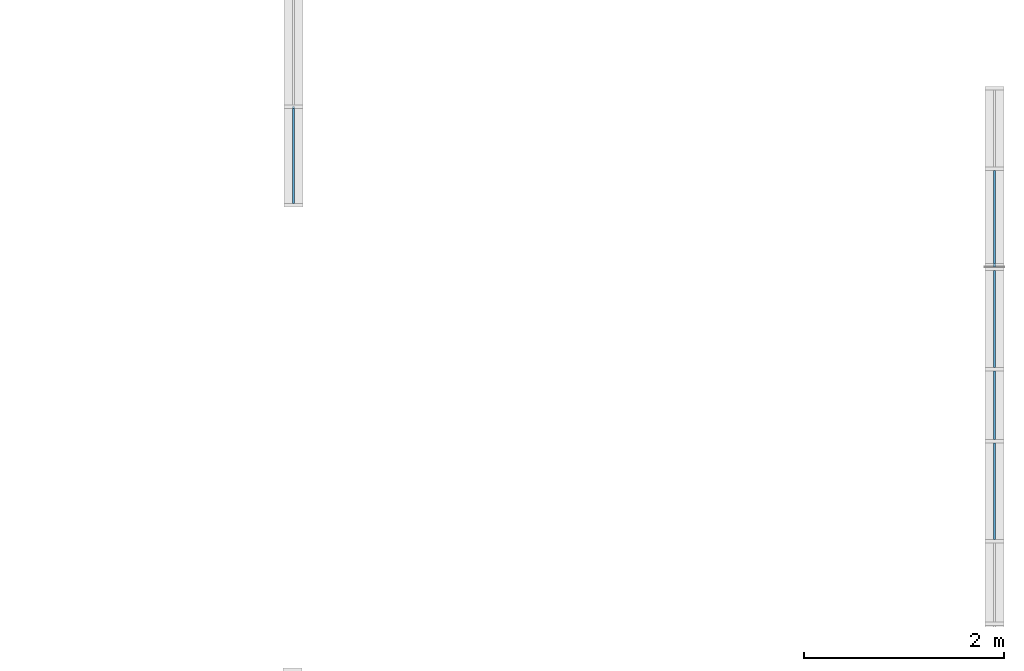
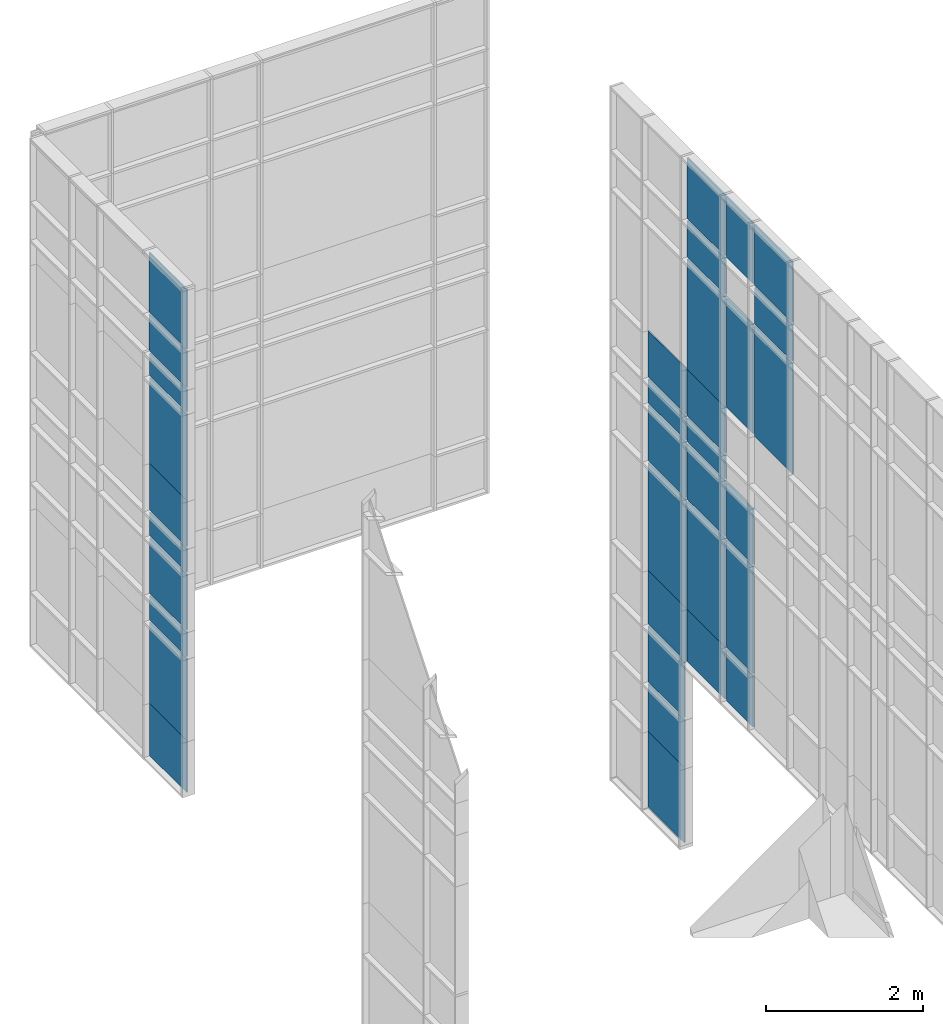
# One storey, part 34 of 73: 34 plates, 2 elements without a shape of their own.
"""IFC2X3 building model written with IfcOpenShell, lengths in millimetres."""

from ifc_helpers import new_model, entity, si_unit, converted_unit, derived_unit, direction, frame, origin, origin_2d_with_axis, place, context, subcontext, project, spatial, polyline, rectangle, outline, extrude, source, transform, mapped, material, layer, layer_set, layer_usage, type_object, type_shapes, element, aggregate, save


model = new_model("IFC2X3")

# Units and contexts
model_context = context("Model", 3, precision=0.01, world=origin(), true_north=direction((6.12303176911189e-17, 1.0)))
body_context = subcontext(model_context, "Body", "Model", "MODEL_VIEW")
ifc_project = project(units=[si_unit("LENGTHUNIT", "METRE", prefix="MILLI"), si_unit("AREAUNIT", "SQUARE_METRE"), si_unit("VOLUMEUNIT", "CUBIC_METRE"), converted_unit("PLANEANGLEUNIT", "DEGREE", entity("IfcRatioMeasure", 0.0174532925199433), si_unit("PLANEANGLEUNIT", "RADIAN"), dimensions=[0, 0, 0, 0, 0, 0, 0]), si_unit("MASSUNIT", "GRAM", prefix="KILO"), derived_unit("MASSDENSITYUNIT", [(si_unit("MASSUNIT", "GRAM", prefix="KILO"), 1), (si_unit("LENGTHUNIT", "METRE"), -3)]), si_unit("TIMEUNIT", "SECOND"), si_unit("FREQUENCYUNIT", "HERTZ"), si_unit("THERMODYNAMICTEMPERATUREUNIT", "DEGREE_CELSIUS"), derived_unit("THERMALTRANSMITTANCEUNIT", [(si_unit("MASSUNIT", "GRAM", prefix="KILO"), 1), (si_unit("THERMODYNAMICTEMPERATUREUNIT", "KELVIN"), -1), (si_unit("TIMEUNIT", "SECOND"), -3)]), derived_unit("VOLUMETRICFLOWRATEUNIT", [(si_unit("LENGTHUNIT", "METRE"), 3), (si_unit("TIMEUNIT", "SECOND"), -1)]), si_unit("ELECTRICCURRENTUNIT", "AMPERE"), si_unit("ELECTRICVOLTAGEUNIT", "VOLT"), si_unit("POWERUNIT", "WATT"), si_unit("FORCEUNIT", "NEWTON", prefix="KILO"), si_unit("ILLUMINANCEUNIT", "LUX"), si_unit("LUMINOUSFLUXUNIT", "LUMEN"), si_unit("LUMINOUSINTENSITYUNIT", "CANDELA"), derived_unit("USERDEFINED", [(si_unit("MASSUNIT", "GRAM", prefix="KILO"), -1), (si_unit("LENGTHUNIT", "METRE"), -2), (si_unit("TIMEUNIT", "SECOND"), 3), (si_unit("LUMINOUSFLUXUNIT", "LUMEN"), 1)]), derived_unit("LINEARVELOCITYUNIT", [(si_unit("LENGTHUNIT", "METRE"), 1), (si_unit("TIMEUNIT", "SECOND"), -1)]), si_unit("PRESSUREUNIT", "PASCAL"), derived_unit("USERDEFINED", [(si_unit("LENGTHUNIT", "METRE"), -2), (si_unit("MASSUNIT", "GRAM", prefix="KILO"), 1), (si_unit("TIMEUNIT", "SECOND"), -2)])], contexts=[model_context])

# Site, building, storey
site_placement = place(None, frame((-151.875543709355, 2715.0, 0.0)))
site = spatial("IfcSite", under=ifc_project, at=site_placement, Name="Surface", CompositionType="ELEMENT")
building_placement = place(site_placement, origin())
building = spatial("IfcBuilding", under=site, at=building_placement, CompositionType="ELEMENT")
storey_placement = place(building_placement, frame((0.0, 0.0, 6730.43000000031)))
storey = spatial("IfcBuildingStorey", under=building, at=storey_placement, Name="3 korrus", CompositionType="ELEMENT", Elevation=6730.43000000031)

# Curtain wall, plates
curtain_wall_type_1 = type_object("IfcCurtainWallType", Name="Curtain Wall:Klaasfassaad", PredefinedType="NOTDEFINED")
curtain_wall_1_placement = place(storey_placement, frame((0.0, 0.0, -6730.43000000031)))
curtain_wall_1 = element("IfcCurtainWall", 1, at=curtain_wall_1_placement, inside=storey, type_object=curtain_wall_type_1, Name="Curtain Wall:Klaasfassaad", ObjectType="Curtain Wall:Klaasfassaad")
ifc_material = material(Name="<Unnamed>")
ifc_layer = layer(ifc_material, 20.0)
ifc_layer_set = layer_set([ifc_layer], Name="Curtain Wall:Klaassein KLS-01")
ifc_layer_usage_1 = layer_usage(ifc_layer_set, "AXIS3", "POSITIVE", 0.0)
plate_type_1 = type_object("IfcPlateType", Name="Glazed", PredefinedType="CURTAIN_PANEL", material=ifc_layer_set)
shared_shape_1 = source(origin(), body_context, "Body", "SweptSolid", [
    extrude(rectangle(XDim=20.0, YDim=927.500026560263, at=origin_2d_with_axis()), frame((0.0, 0.0, 0.0), z_axis=(0.0, 0.0, 1.0), x_axis=(0.0, 1.0, 0.0)), (0.0, 0.0, 1.0), 1174.42772498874),
])
type_shapes(plate_type_1, [shared_shape_1])
plate_1_placement = place(curtain_wall_1_placement, frame((38701.6162681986, 22509.250443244, 1040.00001468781), z_axis=(0.0, 0.0, 1.0), x_axis=(0.0, 1.0, 0.0)))
plate_1 = element("IfcPlate", 2, at=plate_1_placement, type_object=plate_type_1, material=ifc_layer_usage_1, Name="System Panel:Glazed", ObjectType="Glazed", context=body_context, shape_type="MappedRepresentation", body=[
    mapped(shared_shape_1, transform((0.0, 0.0, 0.0), scale=1.0)),
])
ifc_layer_usage_2 = layer_usage(ifc_layer_set, "AXIS3", "POSITIVE", 0.0)
plate_type_2 = type_object("IfcPlateType", Name="Glazed", PredefinedType="CURTAIN_PANEL", material=ifc_layer_set)
shared_shape_2 = source(origin(), body_context, "Body", "SweptSolid", [
    extrude(rectangle(XDim=20.0, YDim=927.500026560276, at=origin_2d_with_axis()), frame((0.0, 0.0, 0.0), z_axis=(0.0, 0.0, 1.0), x_axis=(0.0, 1.0, 0.0)), (0.0, 0.0, 1.0), 742.5),
])
type_shapes(plate_type_2, [shared_shape_2])
plate_2_placement = place(curtain_wall_1_placement, frame((38701.6162681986, 22509.250443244, 2214.42773967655), z_axis=(0.0, 0.0, 1.0), x_axis=(0.0, 1.0, 0.0)))
plate_2 = element("IfcPlate", 3, at=plate_2_placement, type_object=plate_type_2, material=ifc_layer_usage_2, Name="System Panel:Glazed", ObjectType="Glazed", context=body_context, shape_type="MappedRepresentation", body=[
    mapped(shared_shape_2, transform((0.0, 0.0, 0.0), scale=1.0)),
])
ifc_layer_usage_3 = layer_usage(ifc_layer_set, "AXIS3", "POSITIVE", 0.0)
plate_type_3 = type_object("IfcPlateType", Name="Glazed", PredefinedType="CURTAIN_PANEL", material=ifc_layer_set)
shared_shape_3 = source(origin(), body_context, "Body", "SweptSolid", [
    extrude(rectangle(XDim=20.0, YDim=927.500026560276, at=origin_2d_with_axis()), frame((0.0, 0.0, 0.0), z_axis=(0.0, 0.0, 1.0), x_axis=(0.0, 1.0, 0.0)), (0.0, 0.0, 1.0), 864.999999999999),
])
type_shapes(plate_type_3, [shared_shape_3])
plate_3_placement = place(curtain_wall_1_placement, frame((38701.6162681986, 22509.250443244, 2991.92773967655), z_axis=(0.0, 0.0, 1.0), x_axis=(0.0, 1.0, 0.0)))
plate_3 = element("IfcPlate", 4, at=plate_3_placement, type_object=plate_type_3, material=ifc_layer_usage_3, Name="System Panel:Glazed", ObjectType="Glazed", context=body_context, shape_type="MappedRepresentation", body=[
    mapped(shared_shape_3, transform((0.0, 0.0, 0.0), scale=1.0)),
])
ifc_layer_usage_4 = layer_usage(ifc_layer_set, "AXIS3", "POSITIVE", 0.0)
plate_type_4 = type_object("IfcPlateType", Name="Glazed", PredefinedType="CURTAIN_PANEL", material=ifc_layer_set)
shared_shape_4 = source(origin(), body_context, "Body", "SweptSolid", [
    extrude(rectangle(XDim=20.0, YDim=684.999999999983, at=origin_2d_with_axis()), frame((0.0, 0.0, 0.0), z_axis=(0.0, 0.0, 1.0), x_axis=(0.0, 1.0, 0.0)), (0.0, 0.0, 1.0), 797.659729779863),
])
type_shapes(plate_type_4, [shared_shape_4])
plate_4_placement = place(curtain_wall_1_placement, frame((38701.6162681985, 20630.5004565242, 3909.42773967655), z_axis=(0.0, 0.0, 1.0), x_axis=(0.0, 1.0, 0.0)))
plate_4 = element("IfcPlate", 5, at=plate_4_placement, type_object=plate_type_4, material=ifc_layer_usage_4, Name="System Panel:Glazed", ObjectType="Glazed", context=body_context, shape_type="MappedRepresentation", body=[
    mapped(shared_shape_4, transform((0.0, 0.0, 0.0), scale=1.0)),
])
ifc_layer_usage_5 = layer_usage(ifc_layer_set, "AXIS3", "POSITIVE", 0.0)
plate_type_5 = type_object("IfcPlateType", Name="Glazed", PredefinedType="CURTAIN_PANEL", material=ifc_layer_set)
shared_shape_5 = source(origin(), body_context, "Body", "SweptSolid", [
    extrude(rectangle(XDim=20.0, YDim=964.999999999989, at=origin_2d_with_axis()), frame((0.0, 0.0, 0.0), z_axis=(0.0, 0.0, 1.0), x_axis=(0.0, 1.0, 0.0)), (0.0, 0.0, 1.0), 815.159729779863),
])
type_shapes(plate_type_5, [shared_shape_5])
plate_5_placement = place(curtain_wall_1_placement, frame((38701.6162681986, 21490.5004565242, 3909.42773967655), z_axis=(0.0, 0.0, 1.0), x_axis=(0.0, 1.0, 0.0)))
plate_5 = element("IfcPlate", 6, at=plate_5_placement, type_object=plate_type_5, material=ifc_layer_usage_5, Name="System Panel:Glazed", ObjectType="Glazed", context=body_context, shape_type="MappedRepresentation", body=[
    mapped(shared_shape_5, transform((0.0, 0.0, 0.0), scale=1.0)),
])
ifc_layer_usage_6 = layer_usage(ifc_layer_set, "AXIS3", "POSITIVE", 0.0)
plate_type_6 = type_object("IfcPlateType", Name="Glazed", PredefinedType="CURTAIN_PANEL", material=ifc_layer_set)
shared_shape_6 = source(origin(), body_context, "Body", "SweptSolid", [
    extrude(outline(polyline([(-283.386576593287, 320.000017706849), (-283.386576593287, -642.500008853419), (549.273153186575, -642.500008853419), (549.273153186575, 322.49999114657), (-265.886576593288, 322.49999114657), (-265.886576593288, 320.000017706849), (-283.386576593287, 320.000017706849)])), frame((-160.000008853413, -10.0, 283.386576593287), z_axis=(0.0, -1.0, 0.0), x_axis=(0.0, 0.0, 1.0)), (0.0, 0.0, -1.0), 20.0),
])
type_shapes(plate_type_6, [shared_shape_6])
plate_6_placement = place(curtain_wall_1_placement, frame((38701.6162681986, 22490.5004565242, 3891.92773967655), z_axis=(0.0, 0.0, 1.0), x_axis=(0.0, 1.0, 0.0)))
plate_6 = element("IfcPlate", 7, at=plate_6_placement, type_object=plate_type_6, material=ifc_layer_usage_6, Name="System Panel:Glazed", ObjectType="Glazed", context=body_context, shape_type="MappedRepresentation", body=[
    mapped(shared_shape_6, transform((0.0, 0.0, 0.0), scale=1.0)),
])
ifc_layer_usage_7 = layer_usage(ifc_layer_set, "AXIS3", "POSITIVE", 0.0)
plate_type_7 = type_object("IfcPlateType", Name="Glazed", PredefinedType="CURTAIN_PANEL", material=ifc_layer_set)
shared_shape_7 = source(origin(), body_context, "Body", "SweptSolid", [
    extrude(rectangle(XDim=20.0, YDim=684.999999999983, at=origin_2d_with_axis()), frame((0.0, 0.0, 0.0), z_axis=(0.0, 0.0, 1.0), x_axis=(0.0, 1.0, 0.0)), (0.0, 0.0, 1.0), 1665.31945955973),
])
type_shapes(plate_type_7, [shared_shape_7])
plate_7_placement = place(curtain_wall_1_placement, frame((38701.6162681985, 20630.5004565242, 4742.08746945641), z_axis=(0.0, 0.0, 1.0), x_axis=(0.0, 1.0, 0.0)))
plate_7 = element("IfcPlate", 8, at=plate_7_placement, type_object=plate_type_7, material=ifc_layer_usage_7, Name="System Panel:Glazed", ObjectType="Glazed", context=body_context, shape_type="MappedRepresentation", body=[
    mapped(shared_shape_7, transform((0.0, 0.0, 0.0), scale=1.0)),
])
ifc_layer_usage_8 = layer_usage(ifc_layer_set, "AXIS3", "POSITIVE", 0.0)
plate_type_8 = type_object("IfcPlateType", Name="Glazed", PredefinedType="CURTAIN_PANEL", material=ifc_layer_set)
shared_shape_8 = source(origin(), body_context, "Body", "SweptSolid", [
    extrude(rectangle(XDim=20.0, YDim=964.999999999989, at=origin_2d_with_axis()), frame((0.0, 0.0, 0.0), z_axis=(0.0, 0.0, 1.0), x_axis=(0.0, 1.0, 0.0)), (0.0, 0.0, 1.0), 1682.81945955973),
])
type_shapes(plate_type_8, [shared_shape_8])
plate_8_placement = place(curtain_wall_1_placement, frame((38701.6162681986, 21490.5004565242, 4724.58746945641), z_axis=(0.0, 0.0, 1.0), x_axis=(0.0, 1.0, 0.0)))
plate_8 = element("IfcPlate", 9, at=plate_8_placement, type_object=plate_type_8, material=ifc_layer_usage_8, Name="System Panel:Glazed", ObjectType="Glazed", context=body_context, shape_type="MappedRepresentation", body=[
    mapped(shared_shape_8, transform((0.0, 0.0, 0.0), scale=1.0)),
])
ifc_layer_usage_9 = layer_usage(ifc_layer_set, "AXIS3", "POSITIVE", 0.0)
plate_9_placement = place(curtain_wall_1_placement, frame((38701.6162681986, 22490.5004565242, 4724.58746945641), z_axis=(0.0, 0.0, 1.0), x_axis=(0.0, 1.0, 0.0)))
plate_9 = element("IfcPlate", 10, at=plate_9_placement, type_object=plate_type_8, material=ifc_layer_usage_9, Name="System Panel:Glazed", ObjectType="Glazed", context=body_context, shape_type="MappedRepresentation", body=[
    mapped(shared_shape_8, transform((0.0, 0.0, 0.0), scale=1.0)),
])
ifc_layer_usage_10 = layer_usage(ifc_layer_set, "AXIS3", "POSITIVE", 0.0)
plate_type_9 = type_object("IfcPlateType", Name="Glazed", PredefinedType="CURTAIN_PANEL", material=ifc_layer_set)
shared_shape_9 = source(origin(), body_context, "Body", "SweptSolid", [
    extrude(rectangle(XDim=20.0, YDim=684.999999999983, at=origin_2d_with_axis()), frame((0.0, 0.0, 0.0), z_axis=(0.0, 0.0, 1.0), x_axis=(0.0, 1.0, 0.0)), (0.0, 0.0, 1.0), 865.0),
])
type_shapes(plate_type_9, [shared_shape_9])
plate_10_placement = place(curtain_wall_1_placement, frame((38701.6162681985, 20630.5004565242, 6442.40692901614), z_axis=(0.0, 0.0, 1.0), x_axis=(0.0, 1.0, 0.0)))
plate_10 = element("IfcPlate", 11, at=plate_10_placement, type_object=plate_type_9, material=ifc_layer_usage_10, Name="System Panel:Glazed", ObjectType="Glazed", context=body_context, shape_type="MappedRepresentation", body=[
    mapped(shared_shape_9, transform((0.0, 0.0, 0.0), scale=1.0)),
])
ifc_layer_usage_11 = layer_usage(ifc_layer_set, "AXIS3", "POSITIVE", 0.0)
plate_type_10 = type_object("IfcPlateType", Name="Glazed", PredefinedType="CURTAIN_PANEL", material=ifc_layer_set)
shared_shape_10 = source(origin(), body_context, "Body", "SweptSolid", [
    extrude(rectangle(XDim=20.0, YDim=964.999999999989, at=origin_2d_with_axis()), frame((0.0, 0.0, 0.0), z_axis=(0.0, 0.0, 1.0), x_axis=(0.0, 1.0, 0.0)), (0.0, 0.0, 1.0), 865.0),
])
type_shapes(plate_type_10, [shared_shape_10])
plate_11_placement = place(curtain_wall_1_placement, frame((38701.6162681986, 21490.5004565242, 6442.40692901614), z_axis=(0.0, 0.0, 1.0), x_axis=(0.0, 1.0, 0.0)))
plate_11 = element("IfcPlate", 12, at=plate_11_placement, type_object=plate_type_10, material=ifc_layer_usage_11, Name="System Panel:Glazed", ObjectType="Glazed", context=body_context, shape_type="MappedRepresentation", body=[
    mapped(shared_shape_10, transform((0.0, 0.0, 0.0), scale=1.0)),
])
ifc_layer_usage_12 = layer_usage(ifc_layer_set, "AXIS3", "POSITIVE", 0.0)
plate_12_placement = place(curtain_wall_1_placement, frame((38701.6162681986, 22490.5004565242, 6442.40692901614), z_axis=(0.0, 0.0, 1.0), x_axis=(0.0, 1.0, 0.0)))
plate_12 = element("IfcPlate", 13, at=plate_12_placement, type_object=plate_type_10, material=ifc_layer_usage_12, Name="System Panel:Glazed", ObjectType="Glazed", context=body_context, shape_type="MappedRepresentation", body=[
    mapped(shared_shape_10, transform((0.0, 0.0, 0.0), scale=1.0)),
])
ifc_layer_usage_13 = layer_usage(ifc_layer_set, "AXIS3", "POSITIVE", 0.0)
plate_type_11 = type_object("IfcPlateType", Name="Glazed", PredefinedType="CURTAIN_PANEL", material=ifc_layer_set)
shared_shape_11 = source(origin(), body_context, "Body", "SweptSolid", [
    extrude(rectangle(XDim=20.0, YDim=964.999999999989, at=origin_2d_with_axis()), frame((0.0, 0.0, 0.0), z_axis=(0.0, 0.0, 1.0), x_axis=(0.0, 1.0, 0.0)), (0.0, 0.0, 1.0), 364.999999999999),
])
type_shapes(plate_type_11, [shared_shape_11])
plate_13_placement = place(curtain_wall_1_placement, frame((38701.6162681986, 21490.5004565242, 7342.40692901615), z_axis=(0.0, 0.0, 1.0), x_axis=(0.0, 1.0, 0.0)))
plate_13 = element("IfcPlate", 14, at=plate_13_placement, type_object=plate_type_11, material=ifc_layer_usage_13, Name="System Panel:Glazed", ObjectType="Glazed", context=body_context, shape_type="MappedRepresentation", body=[
    mapped(shared_shape_11, transform((0.0, 0.0, 0.0), scale=1.0)),
])
ifc_layer_usage_14 = layer_usage(ifc_layer_set, "AXIS3", "POSITIVE", 0.0)
plate_14_placement = place(curtain_wall_1_placement, frame((38701.6162681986, 22490.5004565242, 7342.40692901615), z_axis=(0.0, 0.0, 1.0), x_axis=(0.0, 1.0, 0.0)))
plate_14 = element("IfcPlate", 15, at=plate_14_placement, type_object=plate_type_11, material=ifc_layer_usage_14, Name="System Panel:Glazed", ObjectType="Glazed", context=body_context, shape_type="MappedRepresentation", body=[
    mapped(shared_shape_11, transform((0.0, 0.0, 0.0), scale=1.0)),
])
ifc_layer_usage_15 = layer_usage(ifc_layer_set, "AXIS3", "POSITIVE", 0.0)
plate_type_12 = type_object("IfcPlateType", Name="Glazed", PredefinedType="CURTAIN_PANEL", material=ifc_layer_set)
shared_shape_12 = source(origin(), body_context, "Body", "SweptSolid", [
    extrude(rectangle(XDim=20.0, YDim=964.999999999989, at=origin_2d_with_axis()), frame((0.0, 0.0, 0.0), z_axis=(0.0, 0.0, 1.0), x_axis=(0.0, 1.0, 0.0)), (0.0, 0.0, 1.0), 722.5),
])
type_shapes(plate_type_12, [shared_shape_12])
plate_15_placement = place(curtain_wall_1_placement, frame((38701.6162681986, 21490.5004565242, 7742.40692901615), z_axis=(0.0, 0.0, 1.0), x_axis=(0.0, 1.0, 0.0)))
plate_15 = element("IfcPlate", 16, at=plate_15_placement, type_object=plate_type_12, material=ifc_layer_usage_15, Name="System Panel:Glazed", ObjectType="Glazed", context=body_context, shape_type="MappedRepresentation", body=[
    mapped(shared_shape_12, transform((0.0, 0.0, 0.0), scale=1.0)),
])
ifc_layer_usage_16 = layer_usage(ifc_layer_set, "AXIS3", "POSITIVE", 0.0)
plate_16_placement = place(curtain_wall_1_placement, frame((38701.6162681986, 22490.5004565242, 7742.40692901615), z_axis=(0.0, 0.0, 1.0), x_axis=(0.0, 1.0, 0.0)))
plate_16 = element("IfcPlate", 17, at=plate_16_placement, type_object=plate_type_12, material=ifc_layer_usage_16, Name="System Panel:Glazed", ObjectType="Glazed", context=body_context, shape_type="MappedRepresentation", body=[
    mapped(shared_shape_12, transform((0.0, 0.0, 0.0), scale=1.0)),
])
ifc_layer_usage_17 = layer_usage(ifc_layer_set, "AXIS3", "POSITIVE", 0.0)
plate_type_13 = type_object("IfcPlateType", Name="Glazed", PredefinedType="CURTAIN_PANEL", material=ifc_layer_set)
shared_shape_13 = source(origin(), body_context, "Body", "SweptSolid", [
    extrude(rectangle(XDim=20.0, YDim=684.999999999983, at=origin_2d_with_axis()), frame((0.0, 0.0, 0.0), z_axis=(0.0, 0.0, 1.0), x_axis=(0.0, 1.0, 0.0)), (0.0, 0.0, 1.0), 1705.0),
])
type_shapes(plate_type_13, [shared_shape_13])
plate_17_placement = place(curtain_wall_1_placement, frame((38701.6162681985, 20630.5004565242, 8482.40692901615), z_axis=(0.0, 0.0, 1.0), x_axis=(0.0, 1.0, 0.0)))
plate_17 = element("IfcPlate", 18, at=plate_17_placement, type_object=plate_type_13, material=ifc_layer_usage_17, Name="System Panel:Glazed", ObjectType="Glazed", context=body_context, shape_type="MappedRepresentation", body=[
    mapped(shared_shape_13, transform((0.0, 0.0, 0.0), scale=1.0)),
])
ifc_layer_usage_18 = layer_usage(ifc_layer_set, "AXIS3", "POSITIVE", 0.0)
plate_type_14 = type_object("IfcPlateType", Name="Glazed", PredefinedType="CURTAIN_PANEL", material=ifc_layer_set)
shared_shape_14 = source(origin(), body_context, "Body", "SweptSolid", [
    extrude(rectangle(XDim=20.0, YDim=964.999999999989, at=origin_2d_with_axis()), frame((0.0, 0.0, 0.0), z_axis=(0.0, 0.0, 1.0), x_axis=(0.0, 1.0, 0.0)), (0.0, 0.0, 1.0), 1722.5),
])
type_shapes(plate_type_14, [shared_shape_14])
plate_18_placement = place(curtain_wall_1_placement, frame((38701.6162681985, 19770.5004565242, 8464.90692901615), z_axis=(0.0, 0.0, 1.0), x_axis=(0.0, 1.0, 0.0)))
plate_18 = element("IfcPlate", 19, at=plate_18_placement, type_object=plate_type_14, material=ifc_layer_usage_18, Name="System Panel:Glazed", ObjectType="Glazed", context=body_context, shape_type="MappedRepresentation", body=[
    mapped(shared_shape_14, transform((0.0, 0.0, 0.0), scale=1.0)),
])
ifc_layer_usage_19 = layer_usage(ifc_layer_set, "AXIS3", "POSITIVE", 0.0)
plate_19_placement = place(curtain_wall_1_placement, frame((38701.6162681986, 21490.5004565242, 8464.90692901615), z_axis=(0.0, 0.0, 1.0), x_axis=(0.0, 1.0, 0.0)))
plate_19 = element("IfcPlate", 20, at=plate_19_placement, type_object=plate_type_14, material=ifc_layer_usage_19, Name="System Panel:Glazed", ObjectType="Glazed", context=body_context, shape_type="MappedRepresentation", body=[
    mapped(shared_shape_14, transform((0.0, 0.0, 0.0), scale=1.0)),
])
ifc_layer_usage_20 = layer_usage(ifc_layer_set, "AXIS3", "POSITIVE", 0.0)
plate_type_15 = type_object("IfcPlateType", Name="Glazed", PredefinedType="CURTAIN_PANEL", material=ifc_layer_set)
shared_shape_15 = source(origin(), body_context, "Body", "SweptSolid", [
    extrude(rectangle(XDim=20.0, YDim=964.999999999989, at=origin_2d_with_axis()), frame((0.0, 0.0, 0.0), z_axis=(0.0, 0.0, 1.0), x_axis=(0.0, 1.0, 0.0)), (0.0, 0.0, 1.0), 564.999999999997),
])
type_shapes(plate_type_15, [shared_shape_15])
plate_20_placement = place(curtain_wall_1_placement, frame((38701.6162681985, 19770.5004565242, 10222.4069290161), z_axis=(0.0, 0.0, 1.0), x_axis=(0.0, 1.0, 0.0)))
plate_20 = element("IfcPlate", 21, at=plate_20_placement, type_object=plate_type_15, material=ifc_layer_usage_20, Name="System Panel:Glazed", ObjectType="Glazed", context=body_context, shape_type="MappedRepresentation", body=[
    mapped(shared_shape_15, transform((0.0, 0.0, 0.0), scale=1.0)),
])
ifc_layer_usage_21 = layer_usage(ifc_layer_set, "AXIS3", "POSITIVE", 0.0)
plate_21_placement = place(curtain_wall_1_placement, frame((38701.6162681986, 21490.5004565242, 10222.4069290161), z_axis=(0.0, 0.0, 1.0), x_axis=(0.0, 1.0, 0.0)))
plate_21 = element("IfcPlate", 22, at=plate_21_placement, type_object=plate_type_15, material=ifc_layer_usage_21, Name="System Panel:Glazed", ObjectType="Glazed", context=body_context, shape_type="MappedRepresentation", body=[
    mapped(shared_shape_15, transform((0.0, 0.0, 0.0), scale=1.0)),
])
ifc_layer_usage_22 = layer_usage(ifc_layer_set, "AXIS3", "POSITIVE", 0.0)
plate_type_16 = type_object("IfcPlateType", Name="Glazed", PredefinedType="CURTAIN_PANEL", material=ifc_layer_set)
shared_shape_16 = source(origin(), body_context, "Body", "SweptSolid", [
    extrude(rectangle(XDim=20.0, YDim=684.999999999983, at=origin_2d_with_axis()), frame((0.0, 0.0, 0.0), z_axis=(0.0, 0.0, 1.0), x_axis=(0.0, 1.0, 0.0)), (0.0, 0.0, 1.0), 947.500000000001),
])
type_shapes(plate_type_16, [shared_shape_16])
plate_22_placement = place(curtain_wall_1_placement, frame((38701.6162681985, 20630.5004565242, 10822.4069290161), z_axis=(0.0, 0.0, 1.0), x_axis=(0.0, 1.0, 0.0)))
plate_22 = element("IfcPlate", 23, at=plate_22_placement, type_object=plate_type_16, material=ifc_layer_usage_22, Name="System Panel:Glazed", ObjectType="Glazed", context=body_context, shape_type="MappedRepresentation", body=[
    mapped(shared_shape_16, transform((0.0, 0.0, 0.0), scale=1.0)),
])
ifc_layer_usage_23 = layer_usage(ifc_layer_set, "AXIS3", "POSITIVE", 0.0)
plate_type_17 = type_object("IfcPlateType", Name="Glazed", PredefinedType="CURTAIN_PANEL", material=ifc_layer_set)
shared_shape_17 = source(origin(), body_context, "Body", "SweptSolid", [
    extrude(rectangle(XDim=20.0, YDim=964.999999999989, at=origin_2d_with_axis()), frame((0.0, 0.0, 0.0), z_axis=(0.0, 0.0, 1.0), x_axis=(0.0, 1.0, 0.0)), (0.0, 0.0, 1.0), 947.500000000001),
])
type_shapes(plate_type_17, [shared_shape_17])
plate_23_placement = place(curtain_wall_1_placement, frame((38701.6162681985, 19770.5004565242, 10822.4069290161), z_axis=(0.0, 0.0, 1.0), x_axis=(0.0, 1.0, 0.0)))
plate_23 = element("IfcPlate", 24, at=plate_23_placement, type_object=plate_type_17, material=ifc_layer_usage_23, Name="System Panel:Glazed", ObjectType="Glazed", context=body_context, shape_type="MappedRepresentation", body=[
    mapped(shared_shape_17, transform((0.0, 0.0, 0.0), scale=1.0)),
])
ifc_layer_usage_24 = layer_usage(ifc_layer_set, "AXIS3", "POSITIVE", 0.0)
plate_24_placement = place(curtain_wall_1_placement, frame((38701.6162681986, 21490.5004565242, 10822.4069290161), z_axis=(0.0, 0.0, 1.0), x_axis=(0.0, 1.0, 0.0)))
plate_24 = element("IfcPlate", 25, at=plate_24_placement, type_object=plate_type_17, material=ifc_layer_usage_24, Name="System Panel:Glazed", ObjectType="Glazed", context=body_context, shape_type="MappedRepresentation", body=[
    mapped(shared_shape_17, transform((0.0, 0.0, 0.0), scale=1.0)),
])
aggregate(curtain_wall_1, [plate_1, plate_2, plate_3, plate_4, plate_5, plate_6, plate_7, plate_8, plate_9, plate_10, plate_11, plate_12, plate_13, plate_14, plate_15, plate_16, plate_18, plate_17, plate_19, plate_20, plate_21, plate_23, plate_22, plate_24])

curtain_wall_type_2 = type_object("IfcCurtainWallType", Name="Curtain Wall:Klaasfassaad2", PredefinedType="NOTDEFINED")
curtain_wall_2_placement = place(storey_placement, frame((0.0, 0.0, -6730.43000000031)))
curtain_wall_2 = element("IfcCurtainWall", 26, at=curtain_wall_2_placement, inside=storey, type_object=curtain_wall_type_2, Name="Curtain Wall:Klaasfassaad2", ObjectType="Curtain Wall:Klaasfassaad2")
ifc_layer_usage_25 = layer_usage(ifc_layer_set, "AXIS3", "POSITIVE", 0.0)
plate_type_18 = type_object("IfcPlateType", Name="Glazed", PredefinedType="CURTAIN_PANEL", material=ifc_layer_set)
shared_shape_18 = source(origin(), body_context, "Body", "SweptSolid", [
    extrude(rectangle(XDim=20.0, YDim=964.999999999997, at=origin_2d_with_axis()), frame((0.0, 0.0, 0.0), z_axis=(0.0, 0.0, 1.0), x_axis=(0.0, 1.0, 0.0)), (0.0, 0.0, 1.0), 565.0),
])
type_shapes(plate_type_18, [shared_shape_18])
plate_25_placement = place(curtain_wall_2_placement, frame((31707.6162682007, 23127.5000000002, 10222.4069290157), z_axis=(0.0, 0.0, 1.0), x_axis=(0.0, 1.0, 0.0)))
plate_25 = element("IfcPlate", 27, at=plate_25_placement, type_object=plate_type_18, material=ifc_layer_usage_25, Name="System Panel:Glazed", ObjectType="Glazed", context=body_context, shape_type="MappedRepresentation", body=[
    mapped(shared_shape_18, transform((0.0, 0.0, 0.0), scale=1.0)),
])
ifc_layer_usage_26 = layer_usage(ifc_layer_set, "AXIS3", "POSITIVE", 0.0)
plate_type_19 = type_object("IfcPlateType", Name="Glazed", PredefinedType="CURTAIN_PANEL", material=ifc_layer_set)
shared_shape_19 = source(origin(), body_context, "Body", "SweptSolid", [
    extrude(rectangle(XDim=20.0, YDim=964.999999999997, at=origin_2d_with_axis()), frame((0.0, 0.0, 0.0), z_axis=(0.0, 0.0, 1.0), x_axis=(0.0, 1.0, 0.0)), (0.0, 0.0, 1.0), 925.000000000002),
])
type_shapes(plate_type_19, [shared_shape_19])
plate_26_placement = place(curtain_wall_2_placement, frame((31707.6162682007, 23127.5000000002, 10822.4069290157), z_axis=(0.0, 0.0, 1.0), x_axis=(0.0, 1.0, 0.0)))
plate_26 = element("IfcPlate", 28, at=plate_26_placement, type_object=plate_type_19, material=ifc_layer_usage_26, Name="System Panel:Glazed", ObjectType="Glazed", context=body_context, shape_type="MappedRepresentation", body=[
    mapped(shared_shape_19, transform((0.0, 0.0, 0.0), scale=1.0)),
])
ifc_layer_usage_27 = layer_usage(ifc_layer_set, "AXIS3", "POSITIVE", 0.0)
plate_type_20 = type_object("IfcPlateType", Name="Glazed", PredefinedType="CURTAIN_PANEL", material=ifc_layer_set)
shared_shape_20 = source(origin(), body_context, "Body", "SweptSolid", [
    extrude(rectangle(XDim=20.0, YDim=947.499999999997, at=origin_2d_with_axis()), frame((0.0, 0.0, 0.0), z_axis=(0.0, 0.0, 1.0), x_axis=(0.0, 1.0, 0.0)), (0.0, 0.0, 1.0), 815.159729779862),
])
type_shapes(plate_type_20, [shared_shape_20])
plate_27_placement = place(curtain_wall_2_placement, frame((31707.6162682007, 23118.7500000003, 3909.42773967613), z_axis=(0.0, 0.0, 1.0), x_axis=(0.0, 1.0, 0.0)))
plate_27 = element("IfcPlate", 29, at=plate_27_placement, type_object=plate_type_20, material=ifc_layer_usage_27, Name="System Panel:Glazed", ObjectType="Glazed", context=body_context, shape_type="MappedRepresentation", body=[
    mapped(shared_shape_20, transform((0.0, 0.0, 0.0), scale=1.0)),
])
ifc_layer_usage_28 = layer_usage(ifc_layer_set, "AXIS3", "POSITIVE", 0.0)
plate_type_21 = type_object("IfcPlateType", Name="Glazed", PredefinedType="CURTAIN_PANEL", material=ifc_layer_set)
shared_shape_21 = source(origin(), body_context, "Body", "SweptSolid", [
    extrude(rectangle(XDim=20.0, YDim=947.499999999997, at=origin_2d_with_axis()), frame((0.0, 0.0, 0.0), z_axis=(0.0, 0.0, 1.0), x_axis=(0.0, 1.0, 0.0)), (0.0, 0.0, 1.0), 1267.34027022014),
])
type_shapes(plate_type_21, [shared_shape_21])
plate_28_placement = place(curtain_wall_2_placement, frame((31707.6162682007, 23118.7500000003, 4724.58746945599), z_axis=(0.0, 0.0, 1.0), x_axis=(0.0, 1.0, 0.0)))
plate_28 = element("IfcPlate", 30, at=plate_28_placement, type_object=plate_type_21, material=ifc_layer_usage_28, Name="System Panel:Glazed", ObjectType="Glazed", context=body_context, shape_type="MappedRepresentation", body=[
    mapped(shared_shape_21, transform((0.0, 0.0, 0.0), scale=1.0)),
])
ifc_layer_usage_29 = layer_usage(ifc_layer_set, "AXIS3", "POSITIVE", 0.0)
plate_type_22 = type_object("IfcPlateType", Name="Glazed", PredefinedType="CURTAIN_PANEL", material=ifc_layer_set)
shared_shape_22 = source(origin(), body_context, "Body", "SweptSolid", [
    extrude(rectangle(XDim=20.0, YDim=947.499999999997, at=origin_2d_with_axis()), frame((0.0, 0.0, 0.0), z_axis=(0.0, 0.0, 1.0), x_axis=(0.0, 1.0, 0.0)), (0.0, 0.0, 1.0), 380.479189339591),
])
type_shapes(plate_type_22, [shared_shape_22])
plate_29_placement = place(curtain_wall_2_placement, frame((31707.6162682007, 23118.7500000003, 6026.92773967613), z_axis=(0.0, 0.0, 1.0), x_axis=(0.0, 1.0, 0.0)))
plate_29 = element("IfcPlate", 31, at=plate_29_placement, type_object=plate_type_22, material=ifc_layer_usage_29, Name="System Panel:Glazed", ObjectType="Glazed", context=body_context, shape_type="MappedRepresentation", body=[
    mapped(shared_shape_22, transform((0.0, 0.0, 0.0), scale=1.0)),
])
ifc_layer_usage_30 = layer_usage(ifc_layer_set, "AXIS3", "POSITIVE", 0.0)
plate_type_23 = type_object("IfcPlateType", Name="Glazed", PredefinedType="CURTAIN_PANEL", material=ifc_layer_set)
shared_shape_23 = source(origin(), body_context, "Body", "SweptSolid", [
    extrude(rectangle(XDim=20.0, YDim=947.499999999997, at=origin_2d_with_axis()), frame((0.0, 0.0, 0.0), z_axis=(0.0, 0.0, 1.0), x_axis=(0.0, 1.0, 0.0)), (0.0, 0.0, 1.0), 865.000000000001),
])
type_shapes(plate_type_23, [shared_shape_23])
plate_30_placement = place(curtain_wall_2_placement, frame((31707.6162682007, 23118.7500000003, 6442.40692901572), z_axis=(0.0, 0.0, 1.0), x_axis=(0.0, 1.0, 0.0)))
plate_30 = element("IfcPlate", 32, at=plate_30_placement, type_object=plate_type_23, material=ifc_layer_usage_30, Name="System Panel:Glazed", ObjectType="Glazed", context=body_context, shape_type="MappedRepresentation", body=[
    mapped(shared_shape_23, transform((0.0, 0.0, 0.0), scale=1.0)),
])
ifc_layer_usage_31 = layer_usage(ifc_layer_set, "AXIS3", "POSITIVE", 0.0)
plate_type_24 = type_object("IfcPlateType", Name="Glazed", PredefinedType="CURTAIN_PANEL", material=ifc_layer_set)
shared_shape_24 = source(origin(), body_context, "Body", "SweptSolid", [
    extrude(rectangle(XDim=20.0, YDim=947.499999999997, at=origin_2d_with_axis()), frame((0.0, 0.0, 0.0), z_axis=(0.0, 0.0, 1.0), x_axis=(0.0, 1.0, 0.0)), (0.0, 0.0, 1.0), 365.0),
])
type_shapes(plate_type_24, [shared_shape_24])
plate_31_placement = place(curtain_wall_2_placement, frame((31707.6162682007, 23118.7500000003, 7342.40692901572), z_axis=(0.0, 0.0, 1.0), x_axis=(0.0, 1.0, 0.0)))
plate_31 = element("IfcPlate", 33, at=plate_31_placement, type_object=plate_type_24, material=ifc_layer_usage_31, Name="System Panel:Glazed", ObjectType="Glazed", context=body_context, shape_type="MappedRepresentation", body=[
    mapped(shared_shape_24, transform((0.0, 0.0, 0.0), scale=1.0)),
])
ifc_layer_usage_32 = layer_usage(ifc_layer_set, "AXIS3", "POSITIVE", 0.0)
plate_type_25 = type_object("IfcPlateType", Name="Glazed", PredefinedType="CURTAIN_PANEL", material=ifc_layer_set)
shared_shape_25 = source(origin(), body_context, "Body", "SweptSolid", [
    extrude(rectangle(XDim=20.0, YDim=947.499999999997, at=origin_2d_with_axis()), frame((0.0, 0.0, 0.0), z_axis=(0.0, 0.0, 1.0), x_axis=(0.0, 1.0, 0.0)), (0.0, 0.0, 1.0), 722.5),
])
type_shapes(plate_type_25, [shared_shape_25])
plate_32_placement = place(curtain_wall_2_placement, frame((31707.6162682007, 23118.7500000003, 7742.40692901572), z_axis=(0.0, 0.0, 1.0), x_axis=(0.0, 1.0, 0.0)))
plate_32 = element("IfcPlate", 34, at=plate_32_placement, type_object=plate_type_25, material=ifc_layer_usage_32, Name="System Panel:Glazed", ObjectType="Glazed", context=body_context, shape_type="MappedRepresentation", body=[
    mapped(shared_shape_25, transform((0.0, 0.0, 0.0), scale=1.0)),
])
ifc_layer_usage_33 = layer_usage(ifc_layer_set, "AXIS3", "POSITIVE", 0.0)
plate_type_26 = type_object("IfcPlateType", Name="Glazed", PredefinedType="CURTAIN_PANEL", material=ifc_layer_set)
shared_shape_26 = source(origin(), body_context, "Body", "SweptSolid", [
    extrude(rectangle(XDim=20.0, YDim=947.499999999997, at=origin_2d_with_axis()), frame((0.0, 0.0, 0.0), z_axis=(0.0, 0.0, 1.0), x_axis=(0.0, 1.0, 0.0)), (0.0, 0.0, 1.0), 1342.5),
])
type_shapes(plate_type_26, [shared_shape_26])
plate_33_placement = place(curtain_wall_2_placement, frame((31707.6162682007, 23118.7500000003, 8464.90692901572), z_axis=(0.0, 0.0, 1.0), x_axis=(0.0, 1.0, 0.0)))
plate_33 = element("IfcPlate", 35, at=plate_33_placement, type_object=plate_type_26, material=ifc_layer_usage_33, Name="System Panel:Glazed", ObjectType="Glazed", context=body_context, shape_type="MappedRepresentation", body=[
    mapped(shared_shape_26, transform((0.0, 0.0, 0.0), scale=1.0)),
])
ifc_layer_usage_34 = layer_usage(ifc_layer_set, "AXIS3", "POSITIVE", 0.0)
plate_type_27 = type_object("IfcPlateType", Name="Glazed", PredefinedType="CURTAIN_PANEL", material=ifc_layer_set)
shared_shape_27 = source(origin(), body_context, "Body", "SweptSolid", [
    extrude(rectangle(XDim=20.0, YDim=947.499999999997, at=origin_2d_with_axis()), frame((0.0, 0.0, 0.0), z_axis=(0.0, 0.0, 1.0), x_axis=(0.0, 1.0, 0.0)), (0.0, 0.0, 1.0), 345.0),
])
type_shapes(plate_type_27, [shared_shape_27])
plate_34_placement = place(curtain_wall_2_placement, frame((31707.6162682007, 23118.7500000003, 9842.40692901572), z_axis=(0.0, 0.0, 1.0), x_axis=(0.0, 1.0, 0.0)))
plate_34 = element("IfcPlate", 36, at=plate_34_placement, type_object=plate_type_27, material=ifc_layer_usage_34, Name="System Panel:Glazed", ObjectType="Glazed", context=body_context, shape_type="MappedRepresentation", body=[
    mapped(shared_shape_27, transform((0.0, 0.0, 0.0), scale=1.0)),
])
aggregate(curtain_wall_2, [plate_27, plate_28, plate_29, plate_30, plate_31, plate_32, plate_33, plate_34, plate_25, plate_26])

save(model, "model.ifc")
